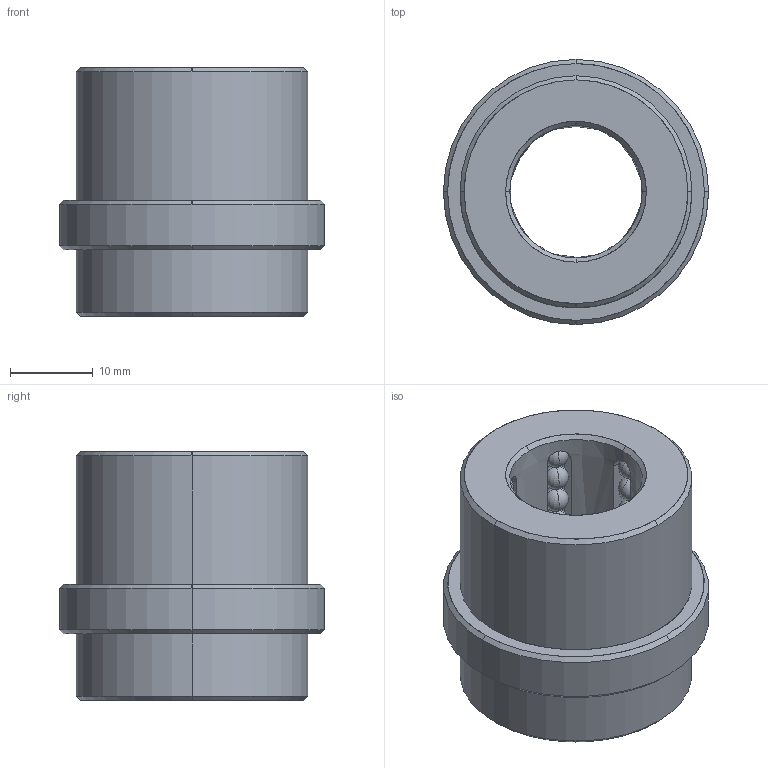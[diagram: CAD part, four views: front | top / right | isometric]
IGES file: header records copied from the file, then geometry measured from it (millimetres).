
Start section: START RECORD GO HERE.
Global section: file name: B8021622.igs; native system: DASSAULT SYSTEMES CATIA V5 R20 - www.3ds.com; preprocessor: CATIA Version 5 Release 20 ; author: Utente; organization: NB04-ASUS; date: 20200419.150400; units: millimetre
Bounding box: 32 x 32 x 30 mm (x, y, z)
Surface area: 7624.6 mm2 (no closed solid volume)
Topology: 0 solids, 0 shells, 258 faces, 1092 edges, 708 vertices
Faces by surface type: revolution 236, plane 22
